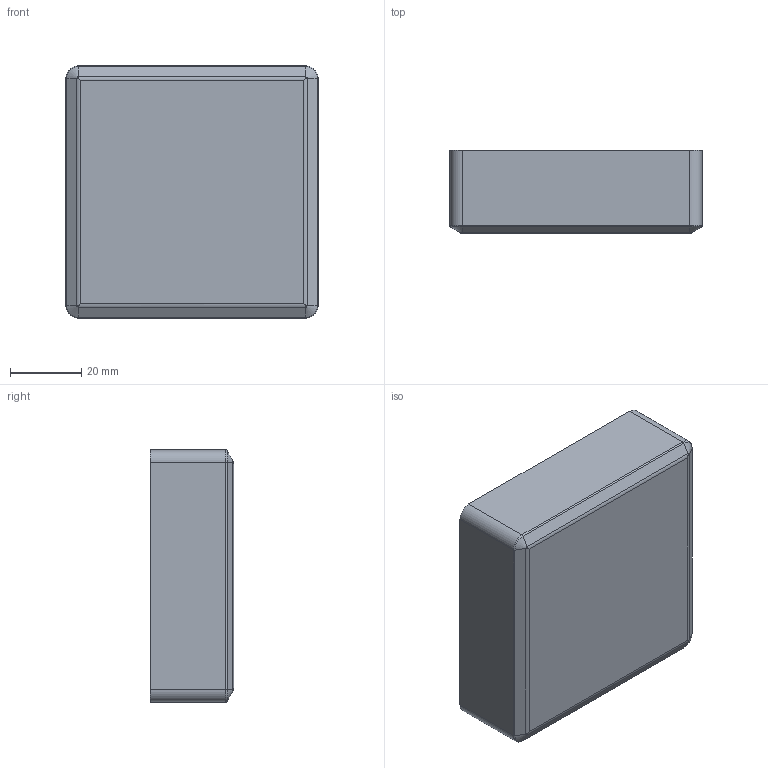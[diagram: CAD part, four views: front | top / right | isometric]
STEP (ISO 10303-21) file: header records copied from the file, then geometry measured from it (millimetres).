
FILE_DESCRIPTION (( 'STEP AP214' ), '1' );
FILE_NAME ('Cos PP118.STEP', '2018-03-05T15:55:39', ( 'aaa' ), ( '' ), 'SwSTEP 2.0', 'SolidWorks 2013', '' );
FILE_SCHEMA (( 'AUTOMOTIVE_DESIGN' ));
Length unit declared in the file: millimetre
Products named in the file (1): Cos PP118
Bounding box: 71 x 23.5 x 71 mm (x, y, z)
Volume: 22358.3 mm3; surface area: 22690.4 mm2
Topology: 1 solids, 1 shells, 87 faces, 184 edges, 108 vertices
Faces by surface type: cylinder 44, plane 27, torus 8, cone 4, bspline 4
Entity records: 3960 total; most frequent: CARTESIAN_POINT 2044, DIRECTION 424, ORIENTED_EDGE 360, EDGE_CURVE 180, AXIS2_PLACEMENT_3D 172, VERTEX_POINT 108, EDGE_LOOP 100, CIRCLE 88
